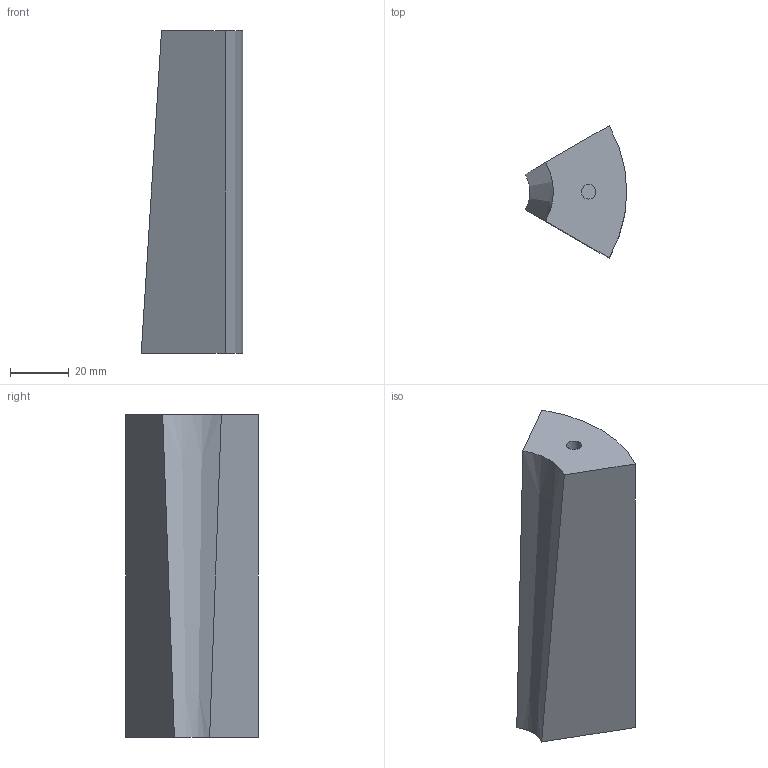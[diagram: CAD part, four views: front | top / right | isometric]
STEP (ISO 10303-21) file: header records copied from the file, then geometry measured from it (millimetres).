
FILE_DESCRIPTION(('Open CASCADE Model'),'2;1');
FILE_NAME('Open CASCADE Shape Model','2026-07-10T11:14:35',('Author'),( 'Open CASCADE'),'Open CASCADE STEP processor 7.9','Open CASCADE 7.9' ,'Unknown');
FILE_SCHEMA(('AUTOMOTIVE_DESIGN { 1 0 10303 214 1 1 1 1 }'));
Length unit declared in the file: millimetre
Products named in the file (1): Open CASCADE STEP translator 7.9 1
Bounding box: 34.61 x 45 x 110 mm (x, y, z)
Volume: 101226.5 mm3; surface area: 15530 mm2
Topology: 1 solids, 1 shells, 8 faces, 15 edges, 10 vertices
Faces by surface type: plane 5, cylinder 2, cone 1
Full cylindrical faces by diameter (mm): 5 x1
Entity records: 407 total; most frequent: CARTESIAN_POINT 94, DIRECTION 54, ORIENTED_EDGE 30, PCURVE 30, DEFINITIONAL_REPRESENTATION 30, LINE 21, VECTOR 21, AXIS2_PLACEMENT_3D 15
